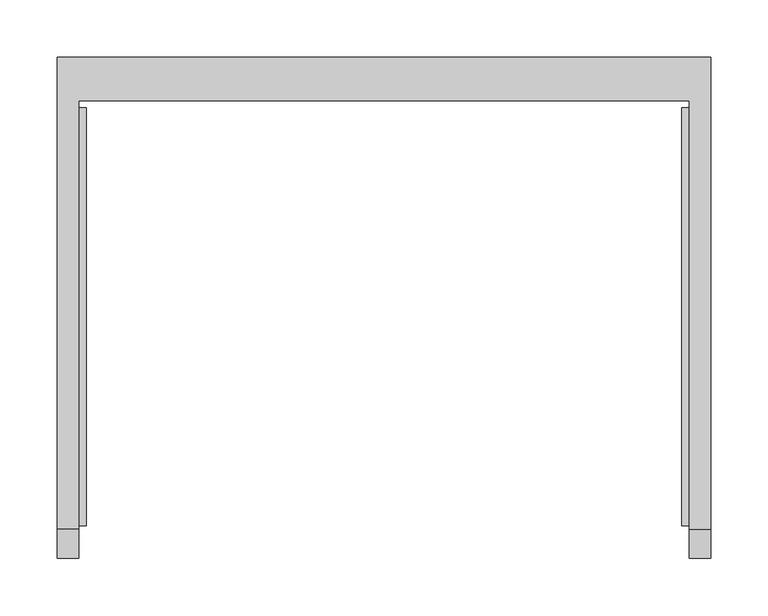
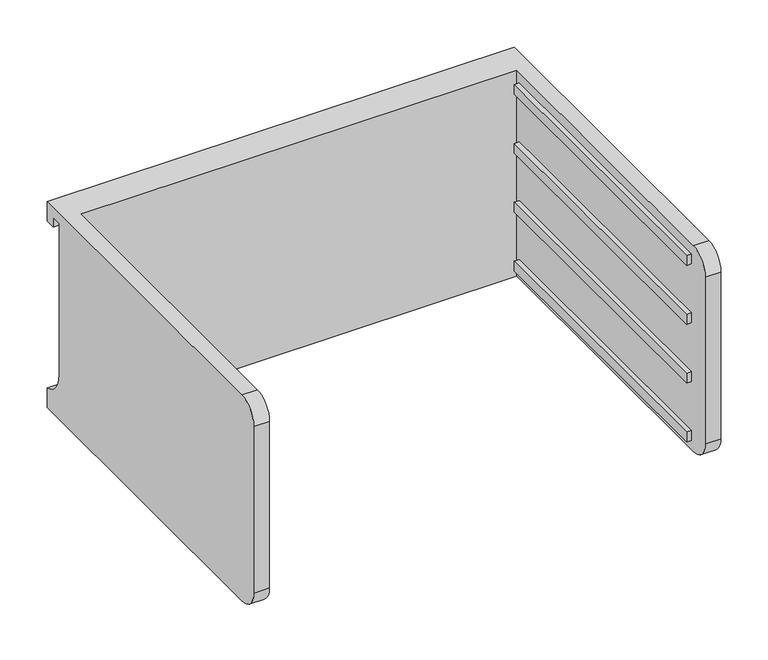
"""IFC4 building model written with IfcOpenShell, lengths in millimetres: furniture geometry."""

from ifc_helpers import new_model, si_unit, frame, origin, place, context, project, spatial, polyline, circle_curve, outline, extrude, source, transform, mapped, element, save
from ifc_brep_helpers import plane_surface, cylinder_surface, revolved_surface, advanced_brep


def furniture_42ff5c24(model_context):
    return source(origin(), model_context, "Body", "SolidModel", [
        advanced_brep(
        [(-171.7622951, -331.6523397, 520.87018), (-171.7622951, -357.0523397, 495.47018), (-171.7622951, -357.0523397, 279.57018), (-171.7622951, -331.6523397, 254.17018), (-171.7622951, 43.0421197, 254.17018), (-171.7622951, 43.0421197, 520.87018), (-190.8122951, -331.6523397, 254.17018), (-190.8122951, -357.0523397, 279.57018), (-190.8122951, -357.0523397, 495.47018), (-190.8122951, -331.6523397, 520.87018), (-190.8122951, 81.0976603, 520.87018), (-190.8122951, 81.0976603, 495.47018), (-190.8122951, 68.4421197, 495.47018), (-190.8122951, 68.4421197, 508.17018), (-190.8122951, 55.7421197, 508.17018), (-190.8122951, 55.7421197, 312.1152), (-190.8122951, 81.0976603, 279.57018), (-190.8122951, 81.0976603, 254.17018), (380.6877049, 81.0976603, 254.17018), (380.6877049, -331.6523397, 254.17018), (361.6377049, -331.6523397, 254.17018), (361.6377049, 43.0421197, 254.17018), (361.6377049, 43.0421197, 520.87018), (361.6377049, -331.6523397, 520.87018), (380.6877049, -331.6523397, 520.87018), (380.6877049, 81.0976603, 520.87018), (380.6877049, 81.0976603, 279.57018), (380.6877049, 55.7421197, 312.1152), (380.6877049, 55.7421197, 508.17018), (380.6877049, 68.4421197, 508.17018), (380.6877049, 68.4421197, 495.47018), (380.6877049, 81.0976603, 495.47018), (380.6877049, -357.0523397, 495.47018), (380.6877049, -357.0523397, 279.57018), (361.6377049, -357.0523397, 279.57018), (361.6377049, -357.0523397, 495.47018)],
        [
            (0, 1, circle_curve(frame((-171.7622951, -331.6523397, 495.47018), z_axis=(1.0, 0.0, 0.0), x_axis=(0.0, 0.0, 1.0)), 25.4)),
            (1, 2),
            (2, 3, circle_curve(frame((-171.7622951, -331.6523397, 279.57018), z_axis=(1.0, 0.0, 0.0), x_axis=(0.0, 0.0, 1.0)), 25.4)),
            (3, 4),
            (4, 5),
            (5, 0),
            (6, 7, circle_curve(frame((-190.8122951, -331.6523397, 279.57018), z_axis=(-1.0, 0.0, 0.0), x_axis=(0.0, 0.0, 1.0)), 25.4)),
            (7, 8),
            (8, 9, circle_curve(frame((-190.8122951, -331.6523397, 495.47018), z_axis=(-1.0, 0.0, 0.0), x_axis=(0.0, 0.0, 1.0)), 25.4)),
            (9, 10),
            (10, 11),
            (11, 12),
            (12, 13),
            (13, 14),
            (14, 15),
            (15, 16, circle_curve(frame((-190.8122951, 89.3064162, 312.1152), z_axis=(1.0, 0.0, 0.0), x_axis=(0.0, 0.0, 1.0)), 33.5642965)),
            (16, 17),
            (17, 6),
            (0, 9),
            (8, 1),
            (7, 2),
            (6, 3),
            (17, 18),
            (18, 19),
            (19, 20),
            (20, 21),
            (21, 4),
            (5, 22),
            (22, 23),
            (23, 24),
            (24, 25),
            (25, 10),
            (18, 26),
            (26, 27, circle_curve(frame((380.6877049, 89.3064162, 312.1152), z_axis=(-1.0, 0.0, 0.0), x_axis=(0.0, 0.0, 1.0)), 33.5642965)),
            (27, 28),
            (28, 29),
            (29, 30),
            (30, 31),
            (31, 25),
            (24, 32, circle_curve(frame((380.6877049, -331.6523397, 495.47018), z_axis=(1.0, 0.0, 0.0), x_axis=(0.0, 0.0, 1.0)), 25.4)),
            (32, 33),
            (33, 19, circle_curve(frame((380.6877049, -331.6523397, 279.57018), z_axis=(1.0, 0.0, 0.0), x_axis=(0.0, 0.0, 1.0)), 25.4)),
            (16, 26),
            (15, 27),
            (14, 28),
            (13, 29),
            (12, 30),
            (11, 31),
            (21, 22),
            (20, 34, circle_curve(frame((361.6377049, -331.6523397, 279.57018), z_axis=(-1.0, 0.0, 0.0), x_axis=(0.0, 0.0, 1.0)), 25.4)),
            (34, 35),
            (35, 23, circle_curve(frame((361.6377049, -331.6523397, 495.47018), z_axis=(-1.0, 0.0, 0.0), x_axis=(0.0, 0.0, 1.0)), 25.4)),
            (35, 32),
            (34, 33),
        ],
        [
            plane_surface(frame((-171.7622951, -331.6523397, 520.87018), z_axis=(1.0, 0.0, 0.0), x_axis=(0.0, -1.0, 0.0))),
            plane_surface(frame((-190.8122951, -331.6523397, 520.87018), z_axis=(-1.0, 0.0, 0.0), x_axis=(0.0, 1.0, 0.0))),
            cylinder_surface(frame((-190.8122951, -331.6523397, 495.47018), z_axis=(1.0, 0.0, 0.0), x_axis=(0.0, 0.0, 1.0)), 25.4),
            plane_surface(frame((-171.7622951, -357.0523397, 495.47018), z_axis=(0.0, -1.0, 0.0), x_axis=(-1.0, 0.0, 0.0))),
            cylinder_surface(frame((-190.8122951, -331.6523397, 279.57018), z_axis=(1.0, 0.0, 0.0), x_axis=(0.0, 0.0, 1.0)), 25.4),
            plane_surface(frame((-171.7622951, -331.6523397, 254.17018), z_axis=(0.0, 0.0, -1.0), x_axis=(-1.0, 0.0, 0.0))),
            plane_surface(frame((-171.7622951, 43.0421197, 520.87018), z_axis=(0.0, 0.0, 1.0), x_axis=(-1.0, 0.0, 0.0))),
            plane_surface(frame((380.6877049, 81.0976603, 279.57018), z_axis=(1.0, 0.0, 0.0), x_axis=(0.0, 0.0, 1.0))),
            plane_surface(frame((380.6877049, 81.0976603, 254.17018), z_axis=(0.0, 1.0, 0.0), x_axis=(-1.0, 0.0, 0.0))),
            revolved_surface(polyline([(-190.8122951, 89.3064162, 345.6794965), (380.68770489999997, 89.3064162, 345.6794965)]), (-190.8122951, 89.3064162, 312.1152), (-1.0, 0.0, 0.0)),
            plane_surface(frame((380.6877049, 55.7421197, 312.1152), z_axis=(0.0, 1.0, 0.0), x_axis=(-1.0, 0.0, 0.0))),
            plane_surface(frame((380.6877049, 55.7421197, 508.17018), z_axis=(0.0, 0.0, -1.0), x_axis=(-1.0, 0.0, 0.0))),
            plane_surface(frame((380.6877049, 68.4421197, 508.17018), z_axis=(0.0, -1.0, 0.0), x_axis=(-1.0, 0.0, 0.0))),
            plane_surface(frame((380.6877049, 68.4421197, 495.47018), z_axis=(0.0, 0.0, -1.0), x_axis=(-1.0, 0.0, 0.0))),
            plane_surface(frame((380.6877049, 81.0976603, 495.47018), z_axis=(0.0, 1.0, 0.0), x_axis=(-1.0, 0.0, 0.0))),
            plane_surface(frame((380.6877049, 43.0421197, 520.87018), z_axis=(0.0, -1.0, 0.0), x_axis=(-1.0, 0.0, 0.0))),
            plane_surface(frame((361.6377049, -331.6523397, 520.87018), z_axis=(-1.0, 0.0, 0.0), x_axis=(0.0, 1.0, 0.0))),
            cylinder_surface(frame((361.6377049, -331.6523397, 495.47018), z_axis=(1.0, 0.0, 0.0), x_axis=(0.0, 0.0, 1.0)), 25.4),
            plane_surface(frame((380.6877049, -357.0523397, 495.47018), z_axis=(0.0, -1.0, 0.0), x_axis=(-1.0, 0.0, 0.0))),
            cylinder_surface(frame((361.6377049, -331.6523397, 279.57018), z_axis=(1.0, 0.0, 0.0), x_axis=(0.0, 0.0, 1.0)), 25.4),
        ],
        [
            (0, [[1, 2, 3, 4, 5, 6]]),
            (1, [[7, 8, 9, 10, 11, 12, 13, 14, 15, 16, 17, 18]]),
            (2, [[-1, 19, -9, 20]]),
            (3, [[-2, -20, -8, 21]]),
            (4, [[-3, -21, -7, 22]]),
            (5, [[-4, -22, -18, 23, 24, 25, 26, 27]]),
            (6, [[-6, 28, 29, 30, 31, 32, -10, -19]]),
            (7, [[-24, 33, 34, 35, 36, 37, 38, 39, -31, 40, 41, 42]]),
            (8, [[-33, -23, -17, 43]]),
            (9, [[-34, -43, -16, 44]]),
            (10, [[-35, -44, -15, 45]]),
            (11, [[-36, -45, -14, 46]]),
            (12, [[-37, -46, -13, 47]]),
            (13, [[-38, -47, -12, 48]]),
            (14, [[-39, -48, -11, -32]]),
            (15, [[-5, -27, 49, -28]]),
            (16, [[-29, -49, -26, 50, 51, 52]]),
            (17, [[-40, -30, -52, 53]]),
            (18, [[-41, -53, -51, 54]]),
            (19, [[-42, -54, -50, -25]]),
        ],
    ),
        extrude(outline(polyline([(355.2877049, -328.4773397), (355.2877049, 36.6921197), (361.6377049, 36.6921197), (361.6377049, -328.4773397), (355.2877049, -328.4773397)])), frame((0.0, 0.0, 343.07018), z_axis=(0.0, 0.0, 1.0), x_axis=(1.0, 0.0, 0.0)), (0.0, 0.0, 1.0), 12.7),
        extrude(outline(polyline([(355.2877049, -328.4773397), (355.2877049, 36.6921197), (361.6377049, 36.6921197), (361.6377049, -328.4773397), (355.2877049, -328.4773397)])), frame((0.0, 0.0, 419.27018), z_axis=(0.0, 0.0, 1.0), x_axis=(1.0, 0.0, 0.0)), (0.0, 0.0, 1.0), 12.7),
        extrude(outline(polyline([(355.2877049, -328.4773397), (355.2877049, 36.6921197), (361.6377049, 36.6921197), (361.6377049, -328.4773397), (355.2877049, -328.4773397)])), frame((0.0, 0.0, 495.47018), z_axis=(0.0, 0.0, 1.0), x_axis=(1.0, 0.0, 0.0)), (0.0, 0.0, 1.0), 12.7),
        extrude(outline(polyline([(355.2877049, -328.4773397), (355.2877049, 36.6921197), (361.6377049, 36.6921197), (361.6377049, -328.4773397), (355.2877049, -328.4773397)])), frame((0.0, 0.0, 266.87018), z_axis=(0.0, 0.0, 1.0), x_axis=(1.0, 0.0, 0.0)), (0.0, 0.0, 1.0), 12.7),
        extrude(outline(polyline([(-171.7622951, -328.4773397), (-171.7622951, 36.6921197), (-165.4122951, 36.6921197), (-165.4122951, -328.4773397), (-171.7622951, -328.4773397)])), frame((0.0, 0.0, 343.07018), z_axis=(0.0, 0.0, 1.0), x_axis=(1.0, 0.0, 0.0)), (0.0, 0.0, 1.0), 12.7),
        extrude(outline(polyline([(-171.7622951, -328.4773397), (-171.7622951, 36.6921197), (-165.4122951, 36.6921197), (-165.4122951, -328.4773397), (-171.7622951, -328.4773397)])), frame((0.0, 0.0, 419.27018), z_axis=(0.0, 0.0, 1.0), x_axis=(1.0, 0.0, 0.0)), (0.0, 0.0, 1.0), 12.7),
        extrude(outline(polyline([(-171.7622951, -328.4773397), (-171.7622951, 36.6921197), (-165.4122951, 36.6921197), (-165.4122951, -328.4773397), (-171.7622951, -328.4773397)])), frame((0.0, 0.0, 495.47018), z_axis=(0.0, 0.0, 1.0), x_axis=(1.0, 0.0, 0.0)), (0.0, 0.0, 1.0), 12.7),
        extrude(outline(polyline([(-171.7622951, -328.4773397), (-171.7622951, 36.6921197), (-165.4122951, 36.6921197), (-165.4122951, -328.4773397), (-171.7622951, -328.4773397)])), frame((0.0, 0.0, 266.87018), z_axis=(0.0, 0.0, 1.0), x_axis=(1.0, 0.0, 0.0)), (0.0, 0.0, 1.0), 12.7),
    ])


if __name__ == "__main__":
    model = new_model("IFC4")
    model_context = context("Model", 3, world=origin())
    ifc_project = project(units=[si_unit("LENGTHUNIT", "METRE", prefix="MILLI")], contexts=[model_context])
    site = spatial("IfcSite", under=ifc_project)
    building = spatial("IfcBuilding", under=site)
    placement = place(None, origin())
    furniture_shape = furniture_42ff5c24(model_context)
    element("IfcFurniture", 1, ObjectType="HermanMiller_CoStruc_CO205_CFrame : 10\"H x 17\"D x 22\"W", at=placement, inside=building, context=model_context, shape_type="MappedRepresentation", body=[
        mapped(furniture_shape, transform((0.0, 0.0, 0.0), x_axis=(1.0, 0.0, 0.0), y_axis=(0.0, 1.0, 0.0), z_axis=(0.0, 0.0, 1.0))),
    ])
    save(model, "model.ifc")
